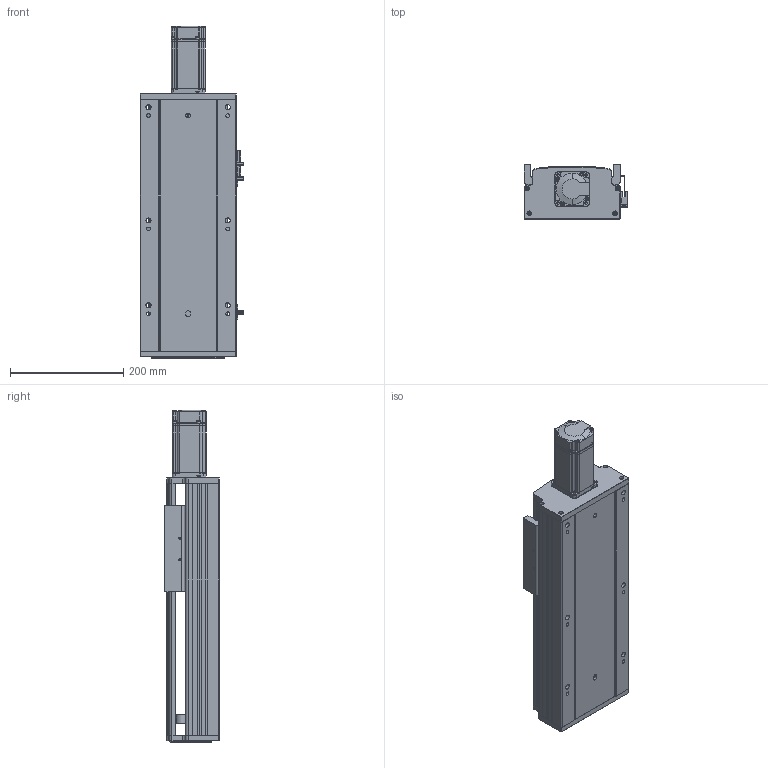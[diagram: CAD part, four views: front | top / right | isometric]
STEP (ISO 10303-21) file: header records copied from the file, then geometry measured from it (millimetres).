
FILE_DESCRIPTION (( 'STEP AP203' ), '1' );
FILE_NAME ('RY170Q-L2020-400-MK.SLDASM_0200.step', '2021-05-31T02:02:02', ( '盈信电脑' ), ( '东莞市道滘镇水果街19号' ), 'SwSTEP 2.0', 'SolidWorks 2016', '' );
FILE_SCHEMA (( 'CONFIG_CONTROL_DESIGN' ));
Length unit declared in the file: millimetre
Products named in the file (12): RY170Q-400倰第裔啣-MK_0200; RY170Q-400倰第菁釱-MK_0200; 15; RY170Q臏賑輸20佪裝蹟譫(FK15); 滅袉蝶18-15; 侂狟400W侜督萇儂; 滅袉蝶18-10; RY170外置感应片(200共用）; RY170Q-L2020-400-MK.SLDASM_0200; 覜茼ん672; RY170綴裔啣; RY170ヶ醱裔啣
Assembly tree (14 placements, depth 3):
  RY170Q-L2020-400-MK.SLDASM_0200
    RY170Q-400倰第菁釱-MK_0200
    RY170Q-400倰第裔啣-MK_0200
    RY170Q臏賑輸20佪裝蹟譫(FK15)
    侂狟400W侜督萇儂
      15
    RY170綴裔啣
    覜茼ん672  x3
    RY170外置感应片(200共用）
    RY170ヶ醱裔啣
    滅袉蝶18-15  x2
    滅袉蝶18-10
Bounding box: 183.7 x 97 x 586.5 mm (x, y, z)
Volume: 2877739.9 mm3; surface area: 862131.1 mm2
Topology: 13 solids, 13 shells, 2054 faces, 5775 edges, 3751 vertices
Faces by surface type: plane 1185, cylinder 703, cone 137, bspline 29
Entity records: 63450 total; most frequent: CARTESIAN_POINT 13489, ORIENTED_EDGE 10378, DIRECTION 9908, EDGE_CURVE 5189, VECTOR 3468, LINE 3468, VERTEX_POINT 3419, AXIS2_PLACEMENT_3D 3220
